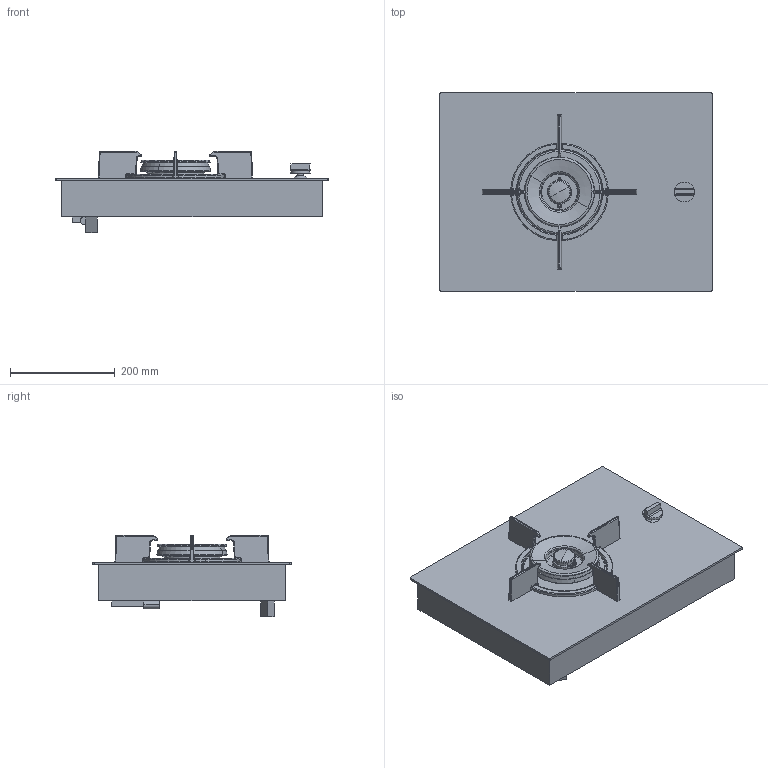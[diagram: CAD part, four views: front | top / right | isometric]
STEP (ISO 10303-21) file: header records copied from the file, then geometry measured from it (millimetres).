
FILE_DESCRIPTION(('CATIA V5 STEP','CAx-IF Rec.Pracs.--- Model Styling and Organization---1.2---2011-12-15'),'2;1');
FILE_NAME('d:\opendxmdata\jobs\0171455\0001_001_out\Simp_CS7101.stp','2017-12-12T09:29:07+00:00',('none'),('none'),'Version 5-6 Release 2012','CATIA V5 STEP AP214','none');
FILE_SCHEMA(('AUTOMOTIVE_DESIGN { 1 0 10303 214 1 1 1 1 }'));
Length unit declared in the file: millimetre
Products named in the file (1): Simp_CS7101
Bounding box: 520 x 378 x 154.98 mm (x, y, z)
Volume: 13594217.8 mm3; surface area: 1029313.3 mm2
Topology: 14 solids, 14 shells, 401 faces, 947 edges, 551 vertices
Faces by surface type: cylinder 114, bspline 105, plane 95, cone 59, torus 26, sphere 2
Entity records: 17528 total; most frequent: CARTESIAN_POINT 9764, ORIENTED_EDGE 1842, DIRECTION 1005, EDGE_CURVE 921, VERTEX_POINT 550, AXIS2_PLACEMENT_3D 461, EDGE_LOOP 411, ADVANCED_FACE 401
